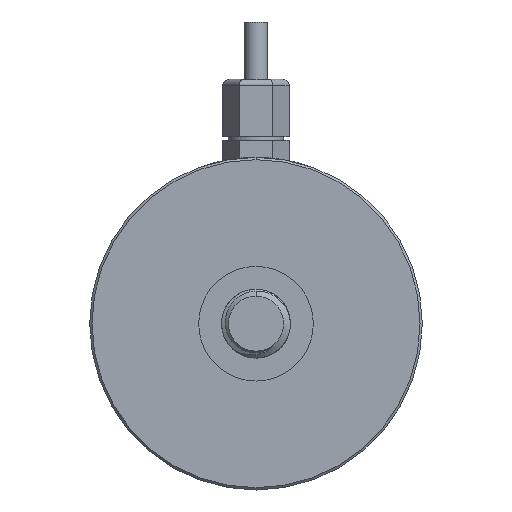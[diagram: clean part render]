
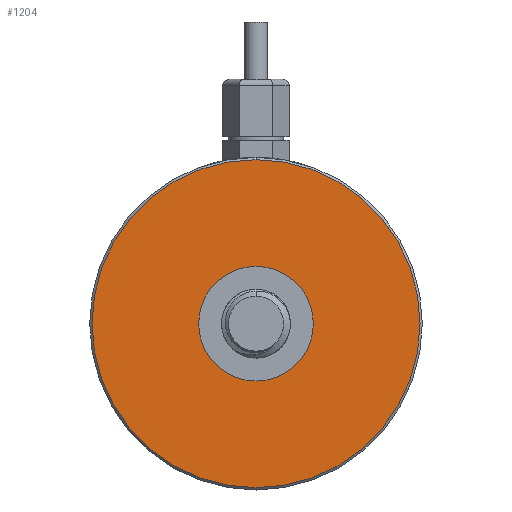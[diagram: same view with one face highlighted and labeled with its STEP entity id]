
A CAD part, front view. The second image highlights one B-rep face of the part: STEP entity #1204.
In plain terms, the highlighted planar face has unit normal (0, -1, 0).
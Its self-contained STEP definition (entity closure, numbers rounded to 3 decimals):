
#67 = EDGE_CURVE ( 'NONE', #2591, #5044, #4602, .T. ) ;
#83 = DIRECTION ( 'NONE',  ( 0., 1., 0. ) ) ;
#107 = FACE_OUTER_BOUND ( 'NONE', #1401, .T. ) ;
#323 = EDGE_LOOP ( 'NONE', ( #3791, #1789 ) ) ;
#359 = DIRECTION ( 'NONE',  ( 0., -1., 0. ) ) ;
#502 = PLANE ( 'NONE',  #3947 ) ;
#537 = CARTESIAN_POINT ( 'NONE',  ( 0., 0., 5. ) ) ;
#571 = CARTESIAN_POINT ( 'NONE',  ( 0., 0., 0. ) ) ;
#913 = DIRECTION ( 'NONE',  ( 0., -1., 0. ) ) ;
#1003 = DIRECTION ( 'NONE',  ( 0., 0., -1. ) ) ;
#1008 = VERTEX_POINT ( 'NONE', #1481 ) ;
#1079 = CIRCLE ( 'NONE', #1098, 14.3 ) ;
#1098 = AXIS2_PLACEMENT_3D ( 'NONE', #1100, #4000, #1513 ) ;
#1100 = CARTESIAN_POINT ( 'NONE',  ( 0., 0., 0. ) ) ;
#1204 = ADVANCED_FACE ( 'NONE', ( #107, #3558 ), #502, .F. ) ;
#1388 = CARTESIAN_POINT ( 'NONE',  ( 0., 0., -5. ) ) ;
#1401 = EDGE_LOOP ( 'NONE', ( #4716, #4433 ) ) ;
#1481 = CARTESIAN_POINT ( 'NONE',  ( 0., 0., 14.3 ) ) ;
#1513 = DIRECTION ( 'NONE',  ( 0., 0., 1. ) ) ;
#1789 = ORIENTED_EDGE ( 'NONE', *, *, #2622, .F. ) ;
#1883 = DIRECTION ( 'NONE',  ( 0., 0., -1. ) ) ;
#1893 = AXIS2_PLACEMENT_3D ( 'NONE', #571, #3503, #1003 ) ;
#2276 = CIRCLE ( 'NONE', #3016, 14.3 ) ;
#2312 = CARTESIAN_POINT ( 'NONE',  ( 0., 0., 0. ) ) ;
#2397 = CARTESIAN_POINT ( 'NONE',  ( 0., 0., -14.3 ) ) ;
#2468 = CIRCLE ( 'NONE', #1893, 5. ) ;
#2578 = DIRECTION ( 'NONE',  ( 0., 0., 1. ) ) ;
#2591 = VERTEX_POINT ( 'NONE', #537 ) ;
#2622 = EDGE_CURVE ( 'NONE', #5044, #2591, #2468, .T. ) ;
#3016 = AXIS2_PLACEMENT_3D ( 'NONE', #3412, #913, #3823 ) ;
#3148 = EDGE_CURVE ( 'NONE', #4137, #1008, #2276, .T. ) ;
#3412 = CARTESIAN_POINT ( 'NONE',  ( 0., 0., 0. ) ) ;
#3424 = CARTESIAN_POINT ( 'NONE',  ( 0., 0., 0. ) ) ;
#3503 = DIRECTION ( 'NONE',  ( 0., -1., 0. ) ) ;
#3558 = FACE_BOUND ( 'NONE', #323, .T. ) ;
#3791 = ORIENTED_EDGE ( 'NONE', *, *, #67, .F. ) ;
#3823 = DIRECTION ( 'NONE',  ( 0., 0., 1. ) ) ;
#3947 = AXIS2_PLACEMENT_3D ( 'NONE', #3424, #83, #2578 ) ;
#4000 = DIRECTION ( 'NONE',  ( 0., -1., 0. ) ) ;
#4022 = EDGE_CURVE ( 'NONE', #1008, #4137, #1079, .T. ) ;
#4137 = VERTEX_POINT ( 'NONE', #2397 ) ;
#4433 = ORIENTED_EDGE ( 'NONE', *, *, #3148, .T. ) ;
#4602 = CIRCLE ( 'NONE', #4870, 5. ) ;
#4716 = ORIENTED_EDGE ( 'NONE', *, *, #4022, .T. ) ;
#4870 = AXIS2_PLACEMENT_3D ( 'NONE', #2312, #359, #1883 ) ;
#5044 = VERTEX_POINT ( 'NONE', #1388 ) ;
